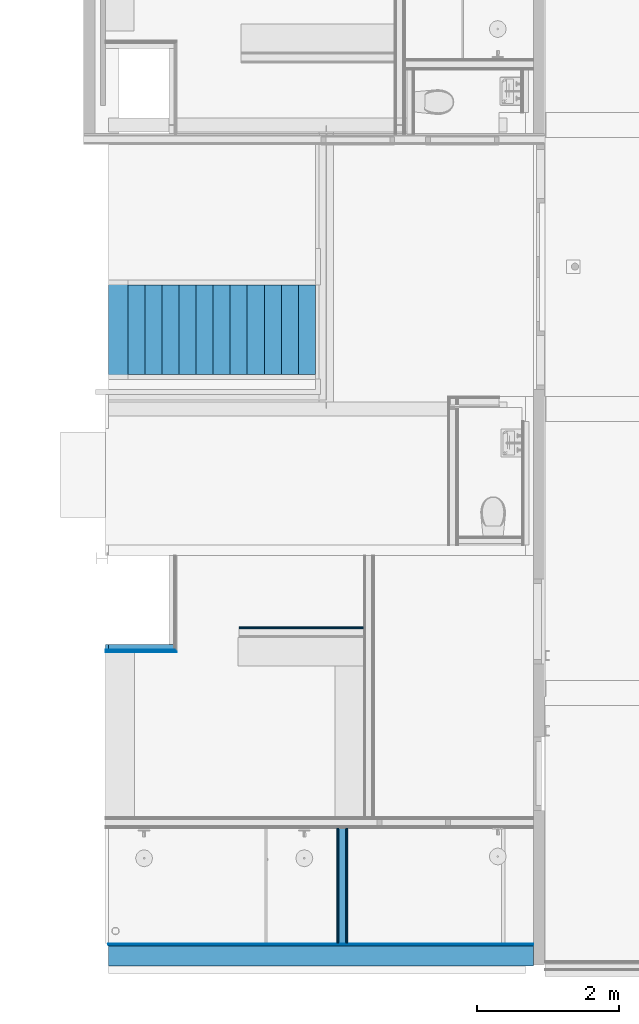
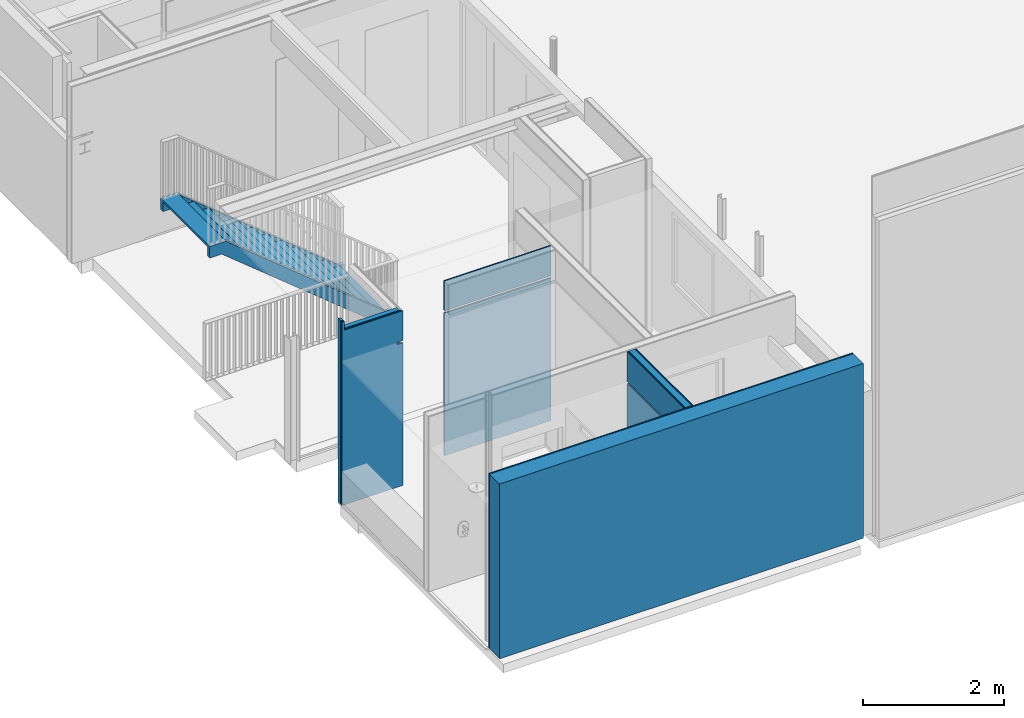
# One storey, part 9 of 35: 14 building element parts, 1 stair, 4 elements without a shape of their own.
"""IFC2X3 building model written with IfcOpenShell, lengths in millimetres."""

from ifc_helpers import new_model, entity, si_unit, converted_unit, derived_unit, money_unit, direction, frame, origin_with_axes, place, context, subcontext, project, spatial, faceted_brep, material, material_list, type_object, element, aggregate, save


model = new_model("IFC2X3")

# Units and contexts
model_context = context("Model", 3, precision=0.01, world=origin_with_axes(), true_north=direction((0.0, 1.0)))
body_context = subcontext(model_context, "Body", "Model", "MODEL_VIEW")
ifc_project = project(units=[si_unit("LENGTHUNIT", "METRE", prefix="MILLI"), si_unit("AREAUNIT", "SQUARE_METRE"), si_unit("VOLUMEUNIT", "CUBIC_METRE"), converted_unit("PLANEANGLEUNIT", "DEGREE", entity("IfcPlaneAngleMeasure", 0.0174532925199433), si_unit("PLANEANGLEUNIT", "RADIAN"), dimensions=[0, 0, 0, 0, 0, 0, 0]), money_unit("EUR"), converted_unit("TIMEUNIT", "Year", entity("IfcTimeMeasure", 31557600.0), si_unit("TIMEUNIT", "SECOND"), dimensions=[0, 0, 1, 0, 0, 0, 0]), si_unit("MASSUNIT", "GRAM", prefix="KILO"), si_unit("THERMODYNAMICTEMPERATUREUNIT", "DEGREE_CELSIUS"), si_unit("LUMINOUSINTENSITYUNIT", "LUMEN"), si_unit("ENERGYUNIT", "JOULE", prefix="MEGA"), derived_unit("THERMALCONDUCTANCEUNIT", [(si_unit("POWERUNIT", "WATT"), 1), (si_unit("LENGTHUNIT", "METRE"), -1), (si_unit("THERMODYNAMICTEMPERATUREUNIT", "KELVIN"), -1)]), derived_unit("SPECIFICHEATCAPACITYUNIT", [(si_unit("ENERGYUNIT", "JOULE"), 1), (si_unit("MASSUNIT", "GRAM", prefix="KILO"), -1), (si_unit("THERMODYNAMICTEMPERATUREUNIT", "KELVIN"), -1)]), derived_unit("MASSDENSITYUNIT", [(si_unit("MASSUNIT", "GRAM", prefix="KILO"), 1), (si_unit("VOLUMEUNIT", "CUBIC_METRE"), -1)])], contexts=[model_context])

# Site, building, storey
site_placement = place(None, origin_with_axes())
site = spatial("IfcSite", under=ifc_project, at=site_placement, Name="<site naam>", CompositionType="ELEMENT")
building_placement = place(site_placement, origin_with_axes())
building = spatial("IfcBuilding", under=site, at=building_placement, Name="<Naam gebouw>", CompositionType="ELEMENT")
storey_placement = place(building_placement, frame((0.0, 0.0, 6345.0), z_axis=(0.0, 0.0, 1.0), x_axis=(1.0, 0.0, 0.0)))
storey = spatial("IfcBuildingStorey", under=building, at=storey_placement, Name="02 2e tussenverdieping", CompositionType="ELEMENT", Elevation=6345.0)

# Stair
ifc_material_1 = material(Name="staal")
ifc_material_list = material_list([ifc_material_1, ifc_material_1, ifc_material_1, ifc_material_1, ifc_material_1, ifc_material_1, ifc_material_1, ifc_material_1, ifc_material_1, ifc_material_1, ifc_material_1, ifc_material_1, ifc_material_1, ifc_material_1])
stair_placement = place(storey_placement, frame((55077.80034901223, 8485.000000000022, -8.253160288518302e-05), z_axis=(0.0, 0.0, 1.0), x_axis=(1.0, 0.0, 0.0)))
element("IfcStair", 1, at=stair_placement, inside=storey, material=ifc_material_list, Name="24_Trap_", ShapeType="NOTDEFINED", context=body_context, shape_type="Brep", body=[
    faceted_brep([(81.80077124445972, 1260.000000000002, 0.0), (11.80077124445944, 1260.000000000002, 0.0), (-228.1992287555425, 1260.0, 195.9090909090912), (-468.1992287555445, 1260.0, 391.8181818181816), (-708.1992287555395, 1260.0, 587.7272727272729), (-948.1992287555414, 1260.0, 783.6363636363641), (-1188.199228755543, 1260.0, 979.5454545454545), (-1428.199228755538, 1260.0, 1175.454545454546), (-1668.19922875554, 1260.0, 1371.363636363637), (-1908.199228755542, 1259.999999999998, 1567.272727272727), (-2148.199228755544, 1259.999999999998, 1763.181818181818), (-2388.199228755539, 1259.999999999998, 1959.09090909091), (-2628.199228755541, 1259.999999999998, 2155.0), (-2898.199228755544, 1259.999999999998, 2155.0), (-2898.199228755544, 1259.999999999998, 1955.000000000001), (-2699.463906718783, 1259.999999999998, 1955.000000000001), (-2514.670932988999, 1259.999999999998, 1804.155735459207), (-2274.670932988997, 1259.999999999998, 1608.246644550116), (-2034.670932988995, 1259.999999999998, 1412.337553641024), (-1794.670932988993, 1260.0, 1216.428462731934), (-1554.670932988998, 1260.0, 1020.519371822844), (-1314.670932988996, 1260.0, 824.6102809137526), (-1074.670932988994, 1260.0, 628.7011900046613), (-834.6709329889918, 1260.0, 432.7920990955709), (-594.670932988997, 1260.0, 236.8830081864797), (-354.670932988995, 1260.0, 40.97391727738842), (-59.46390671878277, 1260.0, -200.0000000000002), (81.80077124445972, 1260.000000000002, -200.0000000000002), (81.80077124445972, 1330.0, 0.0), (11.80077124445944, 1330.0, 0.0), (-228.1992287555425, 1330.0, 195.9090909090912), (-468.1992287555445, 1330.0, 391.8181818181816), (-708.1992287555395, 1330.0, 587.7272727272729), (-948.1992287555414, 1330.0, 783.6363636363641), (-1188.199228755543, 1330.0, 979.5454545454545), (-1428.199228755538, 1330.0, 1175.454545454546), (-1668.19922875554, 1329.999999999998, 1371.363636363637), (-1908.199228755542, 1329.999999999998, 1567.272727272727), (-2148.199228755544, 1329.999999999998, 1763.181818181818), (-2388.199228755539, 1329.999999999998, 1959.09090909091), (-2628.199228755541, 1329.999999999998, 2155.0), (-2898.199228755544, 1329.999999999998, 2155.0), (-2898.199228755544, 1329.999999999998, 1955.000000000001), (-2699.463906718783, 1329.999999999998, 1955.000000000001), (-2514.670932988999, 1329.999999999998, 1804.155735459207), (-2274.670932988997, 1329.999999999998, 1608.246644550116), (-2034.670932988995, 1329.999999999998, 1412.337553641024), (-1794.670932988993, 1329.999999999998, 1216.428462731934), (-1554.670932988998, 1329.999999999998, 1020.519371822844), (-1314.670932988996, 1330.0, 824.6102809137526), (-1074.670932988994, 1330.0, 628.7011900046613), (-834.6709329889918, 1330.0, 432.7920990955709), (-594.670932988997, 1330.0, 236.8830081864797), (-354.670932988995, 1330.0, 40.97391727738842), (-59.46390671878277, 1330.0, -200.0000000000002), (81.80077124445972, 1330.0, -200.0000000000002)], [[[0, 1, 2, 3, 4, 5, 6, 7, 8, 9, 10, 11, 12, 13, 14, 15, 16, 17, 18, 19, 20, 21, 22, 23, 24, 25, 26, 27]], [[28, 29, 1, 0]], [[29, 30, 31, 32, 33, 34, 35, 36, 37, 38, 39, 40, 12, 11, 10, 9, 8, 7, 6, 5, 4, 3, 2, 1]], [[40, 41, 13, 12]], [[13, 41, 42, 14]], [[15, 14, 42, 43]], [[26, 25, 24, 23, 22, 21, 20, 19, 18, 17, 16, 15, 43, 44, 45, 46, 47, 48, 49, 50, 51, 52, 53, 54]], [[27, 26, 54, 55]], [[0, 27, 55, 28]], [[55, 54, 53, 52, 51, 50, 49, 48, 47, 46, 45, 44, 43, 42, 41, 40, 39, 38, 37, 36, 35, 34, 33, 32, 31, 30, 29, 28]]]),
    faceted_brep([(81.80077124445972, -69.99999999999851, 0.0), (11.80077124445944, -69.99999999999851, 0.0), (-228.1992287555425, -69.99999999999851, 195.9090909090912), (-468.1992287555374, -70.00000000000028, 391.8181818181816), (-708.1992287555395, -70.00000000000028, 587.7272727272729), (-948.1992287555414, -70.00000000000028, 783.6363636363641), (-1188.199228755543, -70.00000000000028, 979.5454545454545), (-1428.199228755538, -70.00000000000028, 1175.454545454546), (-1668.19922875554, -70.00000000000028, 1371.363636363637), (-1908.199228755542, -70.00000000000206, 1567.272727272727), (-2148.199228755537, -70.00000000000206, 1763.181818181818), (-2388.199228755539, -70.00000000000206, 1959.09090909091), (-2628.199228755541, -70.00000000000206, 2155.0), (-2898.199228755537, -70.00000000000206, 2155.0), (-2898.199228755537, -70.00000000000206, 1955.000000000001), (-2699.463906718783, -70.00000000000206, 1955.000000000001), (-2514.670932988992, -70.00000000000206, 1804.155735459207), (-2274.670932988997, -70.00000000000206, 1608.246644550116), (-2034.670932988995, -70.00000000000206, 1412.337553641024), (-1794.670932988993, -70.00000000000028, 1216.428462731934), (-1554.670932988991, -70.00000000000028, 1020.519371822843), (-1314.670932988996, -70.00000000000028, 824.6102809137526), (-1074.670932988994, -70.00000000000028, 628.7011900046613), (-834.6709329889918, -70.00000000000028, 432.7920990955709), (-594.670932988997, -70.00000000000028, 236.8830081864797), (-354.670932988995, -70.00000000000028, 40.97391727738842), (-59.46390671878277, -69.99999999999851, -200.0000000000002), (81.80077124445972, -69.99999999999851, -200.0000000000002), (81.80077124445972, 0.0, 0.0), (11.80077124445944, 0.0, 0.0), (-228.1992287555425, 0.0, 195.9090909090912), (-468.1992287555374, 0.0, 391.8181818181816), (-708.1992287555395, 0.0, 587.7272727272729), (-948.1992287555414, 0.0, 783.6363636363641), (-1188.199228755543, 0.0, 979.5454545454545), (-1428.199228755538, 0.0, 1175.454545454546), (-1668.19922875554, 0.0, 1371.363636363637), (-1908.199228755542, 0.0, 1567.272727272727), (-2148.199228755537, 0.0, 1763.181818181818), (-2388.199228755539, 0.0, 1959.09090909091), (-2628.199228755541, 0.0, 2155.0), (-2898.199228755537, 0.0, 2155.0), (-2898.199228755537, 0.0, 1955.000000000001), (-2699.463906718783, 0.0, 1955.000000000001), (-2514.670932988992, 0.0, 1804.155735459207), (-2274.670932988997, 0.0, 1608.246644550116), (-2034.670932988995, 0.0, 1412.337553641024), (-1794.670932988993, 0.0, 1216.428462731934), (-1554.670932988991, 0.0, 1020.519371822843), (-1314.670932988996, 0.0, 824.6102809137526), (-1074.670932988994, 0.0, 628.7011900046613), (-834.6709329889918, 0.0, 432.7920990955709), (-594.670932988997, 0.0, 236.8830081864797), (-354.670932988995, 0.0, 40.97391727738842), (-59.46390671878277, 0.0, -200.0000000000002), (81.80077124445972, 0.0, -200.0000000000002)], [[[0, 1, 2, 3, 4, 5, 6, 7, 8, 9, 10, 11, 12, 13, 14, 15, 16, 17, 18, 19, 20, 21, 22, 23, 24, 25, 26, 27]], [[28, 29, 1, 0]], [[29, 30, 31, 32, 33, 34, 35, 36, 37, 38, 39, 40, 12, 11, 10, 9, 8, 7, 6, 5, 4, 3, 2, 1]], [[40, 41, 13, 12]], [[13, 41, 42, 14]], [[15, 14, 42, 43]], [[26, 25, 24, 23, 22, 21, 20, 19, 18, 17, 16, 15, 43, 44, 45, 46, 47, 48, 49, 50, 51, 52, 53, 54]], [[27, 26, 54, 55]], [[0, 27, 55, 28]], [[55, 54, 53, 52, 51, 50, 49, 48, 47, 46, 45, 44, 43, 42, 41, 40, 39, 38, 37, 36, 35, 34, 33, 32, 31, 30, 29, 28]]]),
    faceted_brep([(11.80077124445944, 1260.000000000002, -38.00000000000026), (11.80077124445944, 1260.000000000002, 0.0), (11.80077124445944, 0.0, 0.0), (11.80077124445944, 0.0, -38.00000000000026), (-258.1992287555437, 1260.0, -38.00000000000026), (-258.1992287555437, 1260.0, 0.0), (-258.1992287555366, 0.0, 0.0), (-258.1992287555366, 0.0, -38.00000000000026)], [[[0, 1, 2, 3]], [[4, 5, 1, 0]], [[1, 5, 6, 2]], [[3, 2, 6, 7]], [[0, 3, 7, 4]], [[7, 6, 5, 4]]]),
    faceted_brep([(-228.1992287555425, 1260.0, 157.909090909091), (-228.1992287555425, 1260.0, 195.9090909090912), (-228.1992287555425, 0.0, 195.9090909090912), (-228.1992287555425, 0.0, 157.909090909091), (-498.1992287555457, 1259.999999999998, 157.909090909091), (-498.1992287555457, 1259.999999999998, 195.9090909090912), (-498.1992287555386, 0.0, 195.9090909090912), (-498.1992287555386, 0.0, 157.909090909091)], [[[0, 1, 2, 3]], [[4, 5, 1, 0]], [[1, 5, 6, 2]], [[3, 2, 6, 7]], [[0, 3, 7, 4]], [[7, 6, 5, 4]]]),
    faceted_brep([(-468.1992287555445, 1260.0, 353.8181818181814), (-468.1992287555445, 1260.0, 391.8181818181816), (-468.1992287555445, 0.0, 391.8181818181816), (-468.1992287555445, 0.0, 353.8181818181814), (-738.1992287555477, 1259.999999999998, 353.8181818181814), (-738.1992287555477, 1259.999999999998, 391.8181818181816), (-738.1992287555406, 0.0, 391.8181818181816), (-738.1992287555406, 0.0, 353.8181818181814)], [[[0, 1, 2, 3]], [[4, 5, 1, 0]], [[1, 5, 6, 2]], [[3, 2, 6, 7]], [[0, 3, 7, 4]], [[7, 6, 5, 4]]]),
    faceted_brep([(-708.1992287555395, 1260.0, 549.7272727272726), (-708.1992287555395, 1260.0, 587.7272727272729), (-708.1992287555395, 0.0, 587.7272727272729), (-708.1992287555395, 0.0, 549.7272727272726), (-978.1992287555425, 1259.999999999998, 549.7272727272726), (-978.1992287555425, 1259.999999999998, 587.7272727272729), (-978.1992287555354, 0.0, 587.7272727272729), (-978.1992287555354, 0.0, 549.7272727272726)], [[[0, 1, 2, 3]], [[4, 5, 1, 0]], [[1, 5, 6, 2]], [[3, 2, 6, 7]], [[0, 3, 7, 4]], [[7, 6, 5, 4]]]),
    faceted_brep([(-948.1992287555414, 1260.0, 745.6363636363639), (-948.1992287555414, 1260.0, 783.6363636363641), (-948.1992287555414, 0.0, 783.6363636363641), (-948.1992287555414, 0.0, 745.6363636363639), (-1218.199228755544, 1259.999999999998, 745.6363636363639), (-1218.199228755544, 1259.999999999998, 783.6363636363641), (-1218.199228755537, 0.0, 783.6363636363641), (-1218.199228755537, 0.0, 745.6363636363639)], [[[0, 1, 2, 3]], [[4, 5, 1, 0]], [[1, 5, 6, 2]], [[3, 2, 6, 7]], [[0, 3, 7, 4]], [[7, 6, 5, 4]]]),
    faceted_brep([(-1188.199228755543, 1260.0, 941.5454545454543), (-1188.199228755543, 1260.0, 979.5454545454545), (-1188.199228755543, 0.0, 979.5454545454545), (-1188.199228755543, 0.0, 941.5454545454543), (-1458.199228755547, 1259.999999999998, 941.5454545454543), (-1458.199228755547, 1259.999999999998, 979.5454545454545), (-1458.199228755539, 0.0, 979.5454545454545), (-1458.199228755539, 0.0, 941.5454545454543)], [[[0, 1, 2, 3]], [[4, 5, 1, 0]], [[1, 5, 6, 2]], [[3, 2, 6, 7]], [[0, 3, 7, 4]], [[7, 6, 5, 4]]]),
    faceted_brep([(-1428.199228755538, 1260.0, 1137.454545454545), (-1428.199228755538, 1260.0, 1175.454545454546), (-1428.199228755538, 0.0, 1175.454545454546), (-1428.199228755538, 0.0, 1137.454545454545), (-1698.199228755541, 1259.999999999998, 1137.454545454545), (-1698.199228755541, 1259.999999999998, 1175.454545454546), (-1698.199228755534, 0.0, 1175.454545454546), (-1698.199228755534, 0.0, 1137.454545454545)], [[[0, 1, 2, 3]], [[4, 5, 1, 0]], [[1, 5, 6, 2]], [[3, 2, 6, 7]], [[0, 3, 7, 4]], [[7, 6, 5, 4]]]),
    faceted_brep([(-1668.19922875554, 1260.0, 1333.363636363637), (-1668.19922875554, 1260.0, 1371.363636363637), (-1668.19922875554, 0.0, 1371.363636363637), (-1668.19922875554, 0.0, 1333.363636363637), (-1938.199228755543, 1259.999999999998, 1333.363636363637), (-1938.199228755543, 1259.999999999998, 1371.363636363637), (-1938.199228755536, 0.0, 1371.363636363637), (-1938.199228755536, 0.0, 1333.363636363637)], [[[0, 1, 2, 3]], [[4, 5, 1, 0]], [[1, 5, 6, 2]], [[3, 2, 6, 7]], [[0, 3, 7, 4]], [[7, 6, 5, 4]]]),
    faceted_brep([(-1908.199228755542, 1259.999999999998, 1529.272727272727), (-1908.199228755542, 1259.999999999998, 1567.272727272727), (-1908.199228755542, 0.0, 1567.272727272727), (-1908.199228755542, 0.0, 1529.272727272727), (-2178.199228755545, 1259.999999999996, 1529.272727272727), (-2178.199228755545, 1259.999999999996, 1567.272727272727), (-2178.199228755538, 0.0, 1567.272727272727), (-2178.199228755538, 0.0, 1529.272727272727)], [[[0, 1, 2, 3]], [[4, 5, 1, 0]], [[1, 5, 6, 2]], [[3, 2, 6, 7]], [[0, 3, 7, 4]], [[7, 6, 5, 4]]]),
    faceted_brep([(-2148.199228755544, 1259.999999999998, 1725.181818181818), (-2148.199228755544, 1259.999999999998, 1763.181818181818), (-2148.199228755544, 0.0, 1763.181818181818), (-2148.199228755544, 0.0, 1725.181818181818), (-2418.199228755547, 1259.999999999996, 1725.181818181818), (-2418.199228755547, 1259.999999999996, 1763.181818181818), (-2418.199228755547, 0.0, 1763.181818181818), (-2418.199228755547, 0.0, 1725.181818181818)], [[[0, 1, 2, 3]], [[4, 5, 1, 0]], [[1, 5, 6, 2]], [[3, 2, 6, 7]], [[0, 3, 7, 4]], [[7, 6, 5, 4]]]),
    faceted_brep([(-2388.199228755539, 1259.999999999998, 1921.09090909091), (-2388.199228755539, 1259.999999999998, 1959.09090909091), (-2388.199228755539, 0.0, 1959.09090909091), (-2388.199228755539, 0.0, 1921.09090909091), (-2658.199228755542, 1259.999999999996, 1921.09090909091), (-2658.199228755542, 1259.999999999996, 1959.09090909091), (-2658.199228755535, 0.0, 1959.09090909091), (-2658.199228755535, 0.0, 1921.09090909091)], [[[0, 1, 2, 3]], [[4, 5, 1, 0]], [[1, 5, 6, 2]], [[3, 2, 6, 7]], [[0, 3, 7, 4]], [[7, 6, 5, 4]]]),
    faceted_brep([(-2628.199228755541, 1329.999999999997, 2117.0), (-2628.199228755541, 1329.999999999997, 2155.0), (-2628.199228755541, -70.00000000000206, 2155.0), (-2628.199228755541, -70.00000000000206, 2117.0), (-2898.199228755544, 1329.999999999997, 2117.0), (-2898.199228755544, 1329.999999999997, 2155.0), (-2898.199228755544, -70.00000000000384, 2155.0), (-2898.199228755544, -70.00000000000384, 2117.0)], [[[0, 1, 2, 3]], [[4, 5, 1, 0]], [[1, 5, 6, 2]], [[3, 2, 6, 7]], [[0, 3, 7, 4]], [[7, 6, 5, 4]]]),
])

# Wall, building element parts
wall_type_1 = type_object("IfcWallType", Name="MS-01 GF 150 ECO DGS/2.100.2.A 150", PredefinedType="NOTDEFINED")
wall_1_placement = place(storey_placement, frame((54015.78284470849, 4935.000000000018, 0.0), z_axis=(0.0, 0.0, 1.0), x_axis=(1.0, 0.0, 0.0)))
wall_1 = element("IfcWall", 2, at=wall_1_placement, inside=storey, type_object=wall_type_1, Name="22_Binnenwand_MS-01")
ifc_material_2 = material(Name="gipsplaat")
building_element_part_1_placement = place(wall_1_placement, origin_with_axes())
building_element_part_1 = element("IfcBuildingElementPart", 3, at=building_element_part_1_placement, material=ifc_material_2, Name="gipsplaat", context=body_context, shape_type="Brep", body=[
    faceted_brep([(0.0, 0.0, 2480.000000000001), (1750.0, 0.0, 2480.000000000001), (1750.0, 0.0, 3.000000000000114), (0.0, 0.0, 3.000000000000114), (1750.0, -12.49999999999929, 2480.000000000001), (0.0, -12.50000000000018, 2480.000000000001), (1750.0, -12.50000000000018, 3.000000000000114), (0.0, -12.50000000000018, 3.000000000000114)], [[[0, 1, 2, 3]], [[4, 1, 0, 5]], [[1, 4, 6, 2]], [[3, 2, 6, 7]], [[5, 0, 3, 7]], [[4, 5, 7, 6]]]),
    faceted_brep([(1750.0, -12.49999999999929, 2520.0), (1750.0, 0.0, 2520.0), (1750.0, 0.0, 3038.000000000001), (1750.0, -12.49999999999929, 3038.000000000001), (0.0, 0.0, 2520.0), (0.0, -12.50000000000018, 2520.0), (0.0, 0.0, 3038.000000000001), (0.0, -12.50000000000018, 3038.000000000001)], [[[0, 1, 2, 3]], [[4, 1, 0, 5]], [[1, 4, 6, 2]], [[3, 2, 6, 7]], [[5, 0, 3, 7]], [[4, 5, 7, 6]]]),
])
building_element_part_2_placement = place(wall_1_placement, origin_with_axes())
building_element_part_2 = element("IfcBuildingElementPart", 4, at=building_element_part_2_placement, material=ifc_material_2, Name="gipsplaat", context=body_context, shape_type="Brep", body=[
    faceted_brep([(0.0, -12.50000000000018, 2480.000000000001), (1750.0, -12.49999999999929, 2480.000000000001), (1750.0, -12.50000000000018, 3.000000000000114), (0.0, -12.50000000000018, 3.000000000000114), (1750.0, -24.99999999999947, 2480.000000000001), (0.0, -24.99999999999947, 2480.000000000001), (1750.0, -24.99999999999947, 3.000000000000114), (0.0, -25.00000000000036, 3.000000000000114)], [[[0, 1, 2, 3]], [[4, 1, 0, 5]], [[1, 4, 6, 2]], [[3, 2, 6, 7]], [[5, 0, 3, 7]], [[4, 5, 7, 6]]]),
    faceted_brep([(1750.0, -24.99999999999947, 2520.0), (1750.0, -12.49999999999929, 2520.0), (1750.0, -12.49999999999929, 3038.000000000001), (1750.0, -24.99999999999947, 3038.000000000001), (0.0, -12.50000000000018, 2520.0), (0.0, -24.99999999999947, 2520.0), (0.0, -12.50000000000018, 3038.000000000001), (0.0, -24.99999999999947, 3038.000000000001)], [[[0, 1, 2, 3]], [[4, 1, 0, 5]], [[1, 4, 6, 2]], [[3, 2, 6, 7]], [[5, 0, 3, 7]], [[4, 5, 7, 6]]]),
])
aggregate(wall_1, [building_element_part_1, building_element_part_2])

wall_type_2 = type_object("IfcWallType", Name="HSB_285 zonder gevelbeplating 313", PredefinedType="NOTDEFINED")
wall_2_placement = place(storey_placement, frame((52174.99998309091, 159.9998584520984, 0.0), z_axis=(0.0, 0.0, 1.0), x_axis=(1.0, 0.0, 0.0)))
wall_2 = element("IfcWall", 5, at=wall_2_placement, inside=storey, type_object=wall_type_2, Name="22_Binnenwand_HSB_285")
building_element_part_3_placement = place(wall_2_placement, origin_with_axes())
building_element_part_3 = element("IfcBuildingElementPart", 6, at=building_element_part_3_placement, material=ifc_material_2, Name="gipsplaat", context=body_context, shape_type="Brep", body=[
    faceted_brep([(5982.782861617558, 312.5000000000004, 0.0), (5982.782861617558, 300.0000000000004, 0.0), (0.0, 300.0, 0.0), (0.0, 312.5, 0.0), (5982.782861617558, 312.5000000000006, 3038.000000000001), (5982.782861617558, 300.0000000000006, 3038.000000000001), (0.0, 300.0000000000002, 3038.000000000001), (0.0, 312.5000000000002, 3038.000000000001)], [[[0, 1, 2, 3]], [[0, 4, 5, 1]], [[1, 5, 6, 2]], [[3, 2, 6, 7]], [[4, 0, 3, 7]], [[5, 4, 7, 6]]]),
])
ifc_material_3 = material(Name="isolatie_houtvezel")
building_element_part_4_placement = place(wall_2_placement, origin_with_axes())
building_element_part_4 = element("IfcBuildingElementPart", 7, at=building_element_part_4_placement, material=ifc_material_3, Name="isolatie_houtvezel", context=body_context, shape_type="Brep", body=[
    faceted_brep([(5982.782861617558, 285.0000000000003, 0.0), (5982.782861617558, 0.0, 0.0), (0.0, 0.0, 0.0), (0.0, 285.0, 0.0), (5982.782861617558, 285.0000000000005, 3038.000000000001), (5982.782861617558, 0.0, 3038.000000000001), (0.0, 0.0, 3038.000000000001), (0.0, 285.0000000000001, 3038.000000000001)], [[[0, 1, 2, 3]], [[0, 4, 5, 1]], [[1, 5, 6, 2]], [[3, 2, 6, 7]], [[4, 0, 3, 7]], [[5, 4, 7, 6]]]),
])
ifc_material_4 = material(Name="hout_OSB")
building_element_part_5_placement = place(wall_2_placement, origin_with_axes())
building_element_part_5 = element("IfcBuildingElementPart", 8, at=building_element_part_5_placement, material=ifc_material_4, Name="hout_OSB", context=body_context, shape_type="Brep", body=[
    faceted_brep([(5982.782861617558, 300.0000000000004, 0.0), (5982.782861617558, 285.0000000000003, 0.0), (0.0, 285.0, 0.0), (0.0, 300.0, 0.0), (5982.782861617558, 300.0000000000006, 3038.000000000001), (5982.782861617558, 285.0000000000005, 3038.000000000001), (0.0, 285.0000000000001, 3038.000000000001), (0.0, 300.0000000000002, 3038.000000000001)], [[[0, 1, 2, 3]], [[0, 4, 5, 1]], [[1, 5, 6, 2]], [[3, 2, 6, 7]], [[4, 0, 3, 7]], [[5, 4, 7, 6]]]),
])
aggregate(wall_2, [building_element_part_3, building_element_part_4, building_element_part_5])

wall_type_3 = type_object("IfcWallType", Name="MS-04 GF 138 V/100.3.A 113", PredefinedType="NOTDEFINED")
wall_3_placement = place(storey_placement, frame((52135.00000000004, 4685.000000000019, 0.0), z_axis=(0.0, 0.0, 1.0), x_axis=(1.0, 0.0, 0.0)))
wall_3 = element("IfcWall", 9, at=wall_3_placement, inside=storey, type_object=wall_type_3, Name="22_Binnenwand_MS-04")
building_element_part_6_placement = place(wall_3_placement, origin_with_axes())
building_element_part_6 = element("IfcBuildingElementPart", 10, at=building_element_part_6_placement, material=ifc_material_2, Name="gipsplaat", context=body_context, shape_type="Brep", body=[
    faceted_brep([(40.00000000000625, -75.00000000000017, 3188.000000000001), (40.00000000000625, -75.00000000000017, 3038.000000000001), (977.499999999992, -75.00000000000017, 3038.000000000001), (977.499999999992, -75.00000000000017, 2520.0), (907.4999969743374, -75.00000000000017, 2520.0), (907.4999969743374, -75.00000000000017, 2480.000000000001), (977.499999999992, -75.00000000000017, 2480.000000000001), (977.499999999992, -75.00000000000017, 0.0), (0.0, -75.00000000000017, 0.0), (0.0, -75.00000000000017, 3188.000000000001), (40.00000000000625, -87.49999999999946, 3188.000000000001), (40.00000000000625, -87.49999999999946, 3038.000000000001), (977.499999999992, -87.49999999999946, 3038.000000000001), (977.499999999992, -87.49999999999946, 2520.0), (907.4999969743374, -87.49999999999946, 2520.0), (907.4999969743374, -87.49999999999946, 2480.000000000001), (977.499999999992, -87.49999999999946, 2480.000000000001), (977.499999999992, -87.50000000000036, 0.0), (0.0, -87.50000000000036, 0.0), (0.0, -87.49999999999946, 3188.000000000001)], [[[0, 1, 2, 3, 4, 5, 6, 7, 8, 9]], [[1, 0, 10, 11]], [[12, 2, 1, 11]], [[2, 12, 13, 3]], [[14, 4, 3, 13]], [[15, 5, 4, 14]], [[15, 16, 6, 5]], [[7, 6, 16, 17]], [[8, 7, 17, 18]], [[18, 19, 9, 8]], [[10, 0, 9, 19]], [[11, 10, 19, 18, 17, 16, 15, 14, 13, 12]]]),
])
ifc_material_5 = material(Name="isolatie_steenwol LSW")
building_element_part_7_placement = place(wall_3_placement, origin_with_axes())
building_element_part_7 = element("IfcBuildingElementPart", 11, at=building_element_part_7_placement, material=ifc_material_5, Name="isolatie_steenwol LSW", context=body_context, shape_type="Brep", body=[
    faceted_brep([(40.00000000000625, 9.286411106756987e-05, 3188.000000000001), (40.00000000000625, 0.0, 3038.000000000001), (964.9999999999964, 0.0, 3038.000000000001), (964.9999999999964, 0.0, 2520.0), (907.4999969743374, 0.0, 2520.0), (907.4999969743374, 0.0, 2480.000000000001), (964.9999999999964, 0.0, 2480.000000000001), (964.9999999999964, 0.0, 0.0), (0.0, 0.0, 0.0), (0.0, 9.286411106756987e-05, 3188.000000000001), (40.00000000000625, -75.00000000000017, 3188.000000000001), (40.00000000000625, -75.00000000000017, 3038.000000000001), (964.9999999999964, -75.00000000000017, 3038.000000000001), (964.9999999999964, -75.00000000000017, 2520.0), (907.4999969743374, -75.00000000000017, 2520.0), (907.4999969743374, -75.00000000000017, 2480.000000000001), (964.9999999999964, -75.00000000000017, 2480.000000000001), (964.9999999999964, -75.00000000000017, 0.0), (0.0, -75.00000000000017, 0.0), (0.0, -75.00000000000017, 3188.000000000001)], [[[0, 1, 2, 3, 4, 5, 6, 7, 8, 9]], [[1, 0, 10, 11]], [[12, 2, 1, 11]], [[2, 12, 13, 3]], [[14, 4, 3, 13]], [[15, 5, 4, 14]], [[15, 16, 6, 5]], [[7, 6, 16, 17]], [[8, 7, 17, 18]], [[18, 19, 9, 8]], [[10, 0, 9, 19]], [[11, 10, 19, 18, 17, 16, 15, 14, 13, 12]]]),
])
building_element_part_8_placement = place(wall_3_placement, origin_with_axes())
building_element_part_8 = element("IfcBuildingElementPart", 12, at=building_element_part_8_placement, material=ifc_material_2, Name="gipsplaat", context=body_context, shape_type="Brep", body=[
    faceted_brep([(40.00000000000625, -87.49999999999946, 3188.000000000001), (40.00000000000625, -87.50000000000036, 3038.000000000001), (989.9999999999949, -87.49999999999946, 3038.000000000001), (989.9999999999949, -87.49999999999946, 2520.0), (907.4999969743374, -87.50000000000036, 2520.0), (907.4999969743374, -87.50000000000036, 2480.000000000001), (989.9999999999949, -87.49999999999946, 2480.000000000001), (989.9999999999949, -87.50000000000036, 0.0), (0.0, -87.50000000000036, 0.0), (0.0, -87.49999999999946, 3188.000000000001), (40.00000000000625, -99.99999999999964, 3188.000000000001), (40.00000000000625, -99.99999999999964, 3038.000000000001), (989.9999999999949, -99.99999999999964, 3038.000000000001), (989.9999999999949, -99.99999999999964, 2520.0), (907.4999969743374, -99.99999999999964, 2520.0), (907.4999969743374, -99.99999999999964, 2480.000000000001), (989.9999999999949, -99.99999999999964, 2480.000000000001), (989.9999999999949, -99.99999999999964, 0.0), (0.0, -99.99999999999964, 0.0), (0.0, -99.99999999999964, 3188.000000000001)], [[[0, 1, 2, 3, 4, 5, 6, 7, 8, 9]], [[1, 0, 10, 11]], [[12, 2, 1, 11]], [[2, 12, 13, 3]], [[14, 4, 3, 13]], [[15, 5, 4, 14]], [[15, 16, 6, 5]], [[7, 6, 16, 17]], [[8, 7, 17, 18]], [[18, 19, 9, 8]], [[10, 0, 9, 19]], [[11, 10, 19, 18, 17, 16, 15, 14, 13, 12]]]),
])
building_element_part_9_placement = place(wall_3_placement, origin_with_axes())
building_element_part_9 = element("IfcBuildingElementPart", 13, at=building_element_part_9_placement, material=ifc_material_2, Name="gipsplaat", context=body_context, shape_type="Brep", body=[
    faceted_brep([(40.00000000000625, -99.99999999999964, 3188.000000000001), (40.00000000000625, -99.99999999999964, 3038.000000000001), (1002.499999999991, -99.99999999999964, 3038.000000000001), (1002.499999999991, -99.99999999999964, 2520.0), (907.4999969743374, -99.99999999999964, 2520.0), (907.4999969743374, -99.99999999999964, 2480.000000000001), (1002.499999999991, -99.99999999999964, 2480.000000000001), (1002.499999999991, -99.99999999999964, 0.0), (0.0, -99.99999999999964, 0.0), (0.0, -99.99999999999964, 3188.000000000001), (40.00000000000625, -112.4999999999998, 3188.000000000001), (40.00000000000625, -112.4999553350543, 3038.000000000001), (1002.499999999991, -112.4999999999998, 3038.000000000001), (1002.499999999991, -112.4999999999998, 2520.0), (907.4999969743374, -112.4999553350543, 2520.0), (907.4999969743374, -112.4999553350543, 2480.000000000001), (1002.499999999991, -112.4999999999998, 2480.000000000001), (1002.499999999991, -112.4999999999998, 0.0), (0.0, -112.4999999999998, 0.0), (0.0, -112.4999999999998, 3188.000000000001)], [[[0, 1, 2, 3, 4, 5, 6, 7, 8, 9]], [[1, 0, 10, 11]], [[12, 2, 1, 11]], [[2, 12, 13, 3]], [[14, 4, 3, 13]], [[15, 5, 4, 14]], [[15, 16, 6, 5]], [[7, 6, 16, 17]], [[8, 7, 17, 18]], [[18, 19, 9, 8]], [[10, 0, 9, 19]], [[11, 10, 19, 18, 17, 16, 15, 14, 13, 12]]]),
])
aggregate(wall_3, [building_element_part_6, building_element_part_7, building_element_part_8, building_element_part_9])

wall_4_placement = place(storey_placement, frame((55468.29999323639, 2100.000000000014, 0.0), z_axis=(0.0, 0.0, 1.0), x_axis=(0.0, -1.0, 0.0)))
wall_4 = element("IfcWall", 14, at=wall_4_placement, inside=storey, type_object=wall_type_1, Name="22_Binnenwand_MS-01")
building_element_part_10_placement = place(wall_4_placement, origin_with_axes())
building_element_part_10 = element("IfcBuildingElementPart", 15, at=building_element_part_10_placement, material=ifc_material_2, Name="gipsplaat", context=body_context, shape_type="Brep", body=[
    faceted_brep([(1622.0, 75.00000000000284, 3038.000000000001), (1622.0, 75.00000000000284, 2520.0), (0.0, 75.00000000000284, 2520.0), (0.0, 75.00000000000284, 3038.000000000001), (1622.0, 62.5, 3038.000000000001), (1622.0, 62.5, 2520.0), (0.0, 62.5, 2520.0), (0.0, 62.5, 3038.000000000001)], [[[0, 1, 2, 3]], [[4, 5, 1, 0]], [[5, 6, 2, 1]], [[3, 2, 6, 7]], [[3, 7, 4, 0]], [[7, 6, 5, 4]]]),
    faceted_brep([(0.0, 62.5, 2480.000000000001), (0.0, 75.00000000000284, 2480.000000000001), (0.0, 75.00000000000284, 0.0), (0.0, 62.5, 0.0), (1622.0, 75.00000000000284, 2480.000000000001), (1622.0, 62.5, 2480.000000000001), (1622.0, 75.00000000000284, 0.0), (1622.0, 62.5, 0.0)], [[[0, 1, 2, 3]], [[4, 1, 0, 5]], [[1, 4, 6, 2]], [[2, 6, 7, 3]], [[5, 0, 3, 7]], [[4, 5, 7, 6]]]),
])
building_element_part_11_placement = place(wall_4_placement, origin_with_axes())
building_element_part_11 = element("IfcBuildingElementPart", 16, at=building_element_part_11_placement, material=ifc_material_5, Name="isolatie_steenwol LSW", context=body_context, shape_type="Brep", body=[
    faceted_brep([(1622.0, 49.99999999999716, 3038.000000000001), (1622.0, 49.99999999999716, 2520.0), (0.0, 49.99999999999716, 2520.0), (0.0, 49.99999999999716, 3038.000000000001), (1622.0, -49.99999999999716, 3038.000000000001), (1622.0, -49.99999999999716, 2520.0), (0.0, -49.99999999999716, 2520.0), (0.0, -49.99999999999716, 3038.000000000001)], [[[0, 1, 2, 3]], [[4, 5, 1, 0]], [[5, 6, 2, 1]], [[3, 2, 6, 7]], [[3, 7, 4, 0]], [[7, 6, 5, 4]]]),
    faceted_brep([(0.0, -49.99999999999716, 2480.000000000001), (0.0, 49.99999999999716, 2480.000000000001), (0.0, 49.99999999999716, 0.0), (0.0, -49.99999999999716, 0.0), (1622.0, 49.99999999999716, 2480.000000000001), (1622.0, -49.99999999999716, 2480.000000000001), (1622.0, 49.99999999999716, 0.0), (1622.0, -49.99999999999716, 0.0)], [[[0, 1, 2, 3]], [[4, 1, 0, 5]], [[1, 4, 6, 2]], [[2, 6, 7, 3]], [[5, 0, 3, 7]], [[4, 5, 7, 6]]]),
])
building_element_part_12_placement = place(wall_4_placement, origin_with_axes())
building_element_part_12 = element("IfcBuildingElementPart", 17, at=building_element_part_12_placement, material=ifc_material_2, Name="gipsplaat", context=body_context, shape_type="Brep", body=[
    faceted_brep([(1622.0, 62.5, 3038.000000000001), (1622.0, 62.5, 2520.0), (0.0, 62.5, 2520.0), (0.0, 62.5, 3038.000000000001), (1622.0, 49.99999999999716, 3038.000000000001), (1622.0, 49.99999999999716, 2520.0), (0.0, 49.99999999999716, 2520.0), (0.0, 49.99999999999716, 3038.000000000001)], [[[0, 1, 2, 3]], [[4, 5, 1, 0]], [[5, 6, 2, 1]], [[3, 2, 6, 7]], [[3, 7, 4, 0]], [[7, 6, 5, 4]]]),
    faceted_brep([(0.0, 49.99999999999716, 2480.000000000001), (0.0, 62.5, 2480.000000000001), (0.0, 62.5, 0.0), (0.0, 49.99999999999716, 0.0), (1622.0, 62.5, 2480.000000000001), (1622.0, 49.99999999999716, 2480.000000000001), (1622.0, 62.5, 0.0), (1622.0, 49.99999999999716, 0.0)], [[[0, 1, 2, 3]], [[4, 1, 0, 5]], [[1, 4, 6, 2]], [[2, 6, 7, 3]], [[5, 0, 3, 7]], [[4, 5, 7, 6]]]),
])
building_element_part_13_placement = place(wall_4_placement, origin_with_axes())
building_element_part_13 = element("IfcBuildingElementPart", 18, at=building_element_part_13_placement, material=ifc_material_2, Name="gipsplaat", context=body_context, shape_type="Brep", body=[
    faceted_brep([(1622.0, -49.99999999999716, 3038.000000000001), (1622.0, -49.99999999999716, 2520.0), (0.0, -49.99999999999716, 2520.0), (0.0, -49.99999999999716, 3038.000000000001), (1622.0, -62.5, 3038.000000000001), (1622.0, -62.5, 2520.0), (0.0, -62.5, 2520.0), (0.0, -62.5, 3038.000000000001)], [[[0, 1, 2, 3]], [[4, 5, 1, 0]], [[5, 6, 2, 1]], [[3, 2, 6, 7]], [[3, 7, 4, 0]], [[7, 6, 5, 4]]]),
    faceted_brep([(0.0, -62.5, 2480.000000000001), (0.0, -49.99999999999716, 2480.000000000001), (0.0, -49.99999999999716, 0.0), (0.0, -62.5, 0.0), (1622.0, -49.99999999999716, 2480.000000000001), (1622.0, -62.5, 2480.000000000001), (1622.0, -49.99999999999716, 0.0), (1622.0, -62.5, 0.0)], [[[0, 1, 2, 3]], [[4, 1, 0, 5]], [[1, 4, 6, 2]], [[2, 6, 7, 3]], [[5, 0, 3, 7]], [[4, 5, 7, 6]]]),
])
building_element_part_14_placement = place(wall_4_placement, origin_with_axes())
building_element_part_14 = element("IfcBuildingElementPart", 19, at=building_element_part_14_placement, material=ifc_material_2, Name="gipsplaat", context=body_context, shape_type="Brep", body=[
    faceted_brep([(1622.0, -62.5, 3038.000000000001), (1622.0, -62.5, 2520.0), (0.0, -62.5, 2520.0), (0.0, -62.5, 3038.000000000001), (1622.0, -75.00000000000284, 3038.000000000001), (1622.0, -75.00000000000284, 2520.0), (0.0, -75.00000000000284, 2520.0), (0.0, -75.00000000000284, 3038.000000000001)], [[[0, 1, 2, 3]], [[4, 5, 1, 0]], [[5, 6, 2, 1]], [[3, 2, 6, 7]], [[3, 7, 4, 0]], [[7, 6, 5, 4]]]),
    faceted_brep([(0.0, -75.00000000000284, 2480.000000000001), (0.0, -62.5, 2480.000000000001), (0.0, -62.5, 0.0), (0.0, -75.00000000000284, 0.0), (1622.0, -62.5, 2480.000000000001), (1622.0, -75.00000000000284, 2480.000000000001), (1622.0, -62.5, 0.0), (1622.0, -75.00000000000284, 0.0)], [[[0, 1, 2, 3]], [[4, 1, 0, 5]], [[1, 4, 6, 2]], [[2, 6, 7, 3]], [[5, 0, 3, 7]], [[4, 5, 7, 6]]]),
])
aggregate(wall_4, [building_element_part_10, building_element_part_11, building_element_part_12, building_element_part_13, building_element_part_14])

save(model, "model.ifc")
